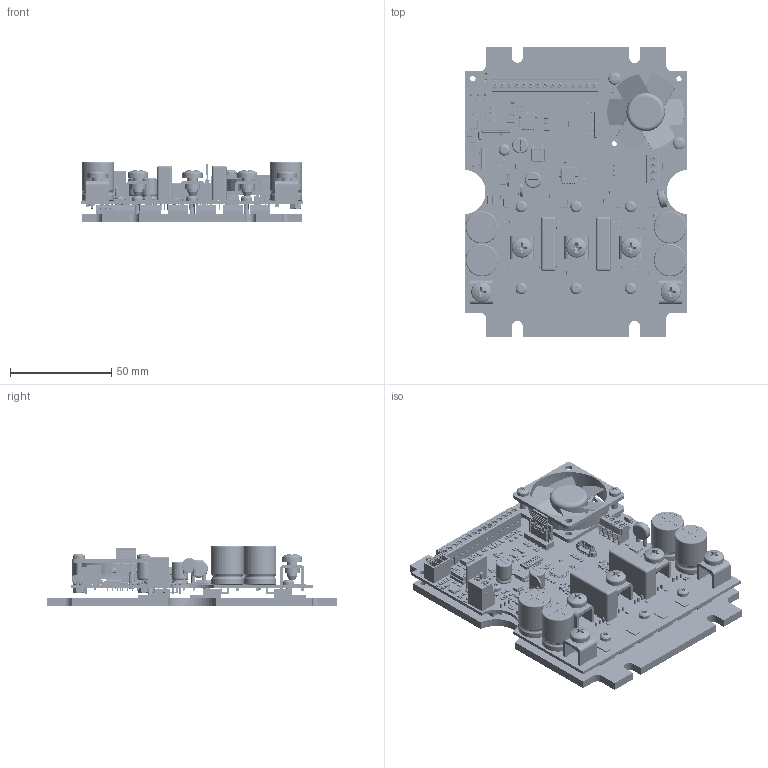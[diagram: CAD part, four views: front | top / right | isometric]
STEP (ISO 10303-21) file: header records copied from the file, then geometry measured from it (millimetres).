
FILE_DESCRIPTION(('STEP AP214'),'1');
FILE_NAME('EM-379_v2-3d.step','2023-09-08T08:03:00',(' '),(' '),'Spatial InterOp 3D','XD3DPlugin XRACreate',' ');
FILE_SCHEMA(('automotive_design'));
Length unit declared in the file: millimetre
Products named in the file (198): Submodel-Z:\TUOTTEET\EM-379\1. PCB_comma_ Schema\Ver 2\PCB\EM-379_v2-3d_PCB\3D\Input_S\RES 0805.xtd; RES 0805; Submodel-RES0805_47K_part_simplified_0805; DesignRootModel; Submodel-Z:\TUOTTEET\EM-379\1. PCB_comma_ Schema\Ver 2\PCB\EM-379_v2-3d_PCB\3D\Input_S\SOT-23.xtd; SOT-23; Submodel-MMUN2213LT1_SOT23_NPN-50V-0.1A-DIGI_part_simplified_SOT23; Submodel-RES0805_100K_part_simplified_0805; Submodel-Z:\TUOTTEET\EM-379\1. PCB_comma_ Schema\Ver 2\PCB\EM-379_v2-3d_PCB\3D\Input_S\pxc_1984620_01_PT-1-5-3-3-5-H_3D.xtd; pxc_1984620_01_PT-1-5-3-3-5-H_3D; Submodel-PT1.5_slash_3-3.5-H_part_simplified_CON-H3-7.6_slash_9.2_slash_3.5; Submodel-Z:\TUOTTEET\EM-379\1. PCB_comma_ Schema\Ver 2\PCB\EM-379_v2-3d_PCB\3D\Input_S\LED RED 0603.xtd; LED RED 0603; Submodel-WL-SMCW_0603_LED-RED_part_simplified_0603_LED; Submodel-Z:\TUOTTEET\EM-379\1. PCB_comma_ Schema\Ver 2\PCB\EM-379_v2-3d_PCB\3D\Input_S\SO-8.xtd; SO-8; Submodel-ST485EBDR_SO8_RS-485_TRANSCEIVER_part_simplified_SO8; Submodel-SM712_7_slash_12V_slash_600W-BIDIR-TVS_part_simplified_SOT23; Submodel-Z:\TUOTTEET\EM-379\1. PCB_comma_ Schema\Ver 2\PCB\EM-379_v2-3d_PCB\3D\Input_S\DO219AB.xtd; DO219AB; Submodel-RS07J-GS08_1A600V_DO219AB-2_part_simplified_DO-219AB-SMF; Submodel-Z:\TUOTTEET\EM-379\1. PCB_comma_ Schema\Ver 2\PCB\EM-379_v2-3d_PCB\3D\Input_S\RES 1206.xtd; RES 1206; Submodel-RES1206_47R_part_simplified_1206; Submodel-RES0805_4K7_part_simplified_0805; Submodel-RES0805_3K9_part_simplified_0805; Submodel-RES0805_3K3_part_simplified_0805; Submodel-RES0805_33K_part_simplified_0805; Submodel-RES0805_2K2_part_simplified_0805; Submodel-RES0805_22K_part_simplified_0805; Submodel-RES0805_1M_part_simplified_0805; Submodel-RES0805_1K_part_simplified_0805; Submodel-RES0805_10R_part_simplified_0805; Submodel-RES0805_10K_part_simplified_0805; Submodel-Z:\TUOTTEET\EM-379\1. PCB_comma_ Schema\Ver 2\PCB\EM-379_v2-3d_PCB\3D\Input_S\MF-R010.xtd; MF-R010; Submodel-PTC_RAD_0.5A60V_part_simplified_PTC-RAD-5.5_slash_2.0_slash_10.5_slash_5.08; Submodel-Z:\TUOTTEET\EM-379\1. PCB_comma_ Schema\Ver 2\PCB\EM-379_v2-3d_PCB\3D\Input_S\pxc_1843619_03_MCV-1-5-3-G-3-5_3D.xtd; pxc_1843619_03_MCV-1-5-3-G-3-5_3D; Submodel-MCV1.5_slash_3-G-3.5_part_simplified_MCV1_comma_5_slash_3-G-3_comma_5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
Assembly tree (388 placements, depth 5):
  EM-379_v2-3d
    DesignRootModel
      Submodel-RES0805_47K_part_simplified_0805  x13
        Submodel-Z:\TUOTTEET\EM-379\1. PCB_comma_ Schema\Ver 2\PCB\EM-379_v2-3d_PCB\3D\Input_S\RES 0805.xtd
          RES 0805
      Submodel-MMUN2213LT1_SOT23_NPN-50V-0.1A-DIGI_part_simplified_SOT23  x3
        Submodel-Z:\TUOTTEET\EM-379\1. PCB_comma_ Schema\Ver 2\PCB\EM-379_v2-3d_PCB\3D\Input_S\SOT-23.xtd
          SOT-23
      Submodel-RES0805_100K_part_simplified_0805  x4
        Submodel-Z:\TUOTTEET\EM-379\1. PCB_comma_ Schema\Ver 2\PCB\EM-379_v2-3d_PCB\3D\Input_S\RES 0805.xtd
          RES 0805
      Submodel-PT1.5_slash_3-3.5-H_part_simplified_CON-H3-7.6_slash_9.2_slash_3.5  x3
        Submodel-Z:\TUOTTEET\EM-379\1. PCB_comma_ Schema\Ver 2\PCB\EM-379_v2-3d_PCB\3D\Input_S\pxc_1984620_01_PT-1-5-3-3-5-H_3D.xtd
          pxc_1984620_01_PT-1-5-3-3-5-H_3D
      Submodel-WL-SMCW_0603_LED-RED_part_simplified_0603_LED
        Submodel-Z:\TUOTTEET\EM-379\1. PCB_comma_ Schema\Ver 2\PCB\EM-379_v2-3d_PCB\3D\Input_S\LED RED 0603.xtd
          LED RED 0603
      Submodel-ST485EBDR_SO8_RS-485_TRANSCEIVER_part_simplified_SO8
        Submodel-Z:\TUOTTEET\EM-379\1. PCB_comma_ Schema\Ver 2\PCB\EM-379_v2-3d_PCB\3D\Input_S\SO-8.xtd
          SO-8
      Submodel-SM712_7_slash_12V_slash_600W-BIDIR-TVS_part_simplified_SOT23
        Submodel-Z:\TUOTTEET\EM-379\1. PCB_comma_ Schema\Ver 2\PCB\EM-379_v2-3d_PCB\3D\Input_S\SOT-23.xtd
          SOT-23
      Submodel-RS07J-GS08_1A600V_DO219AB-2_part_simplified_DO-219AB-SMF  x3
        Submodel-Z:\TUOTTEET\EM-379\1. PCB_comma_ Schema\Ver 2\PCB\EM-379_v2-3d_PCB\3D\Input_S\DO219AB.xtd
          DO219AB
      Submodel-RES1206_47R_part_simplified_1206  x3
        Submodel-Z:\TUOTTEET\EM-379\1. PCB_comma_ Schema\Ver 2\PCB\EM-379_v2-3d_PCB\3D\Input_S\RES 1206.xtd
          RES 1206
      Submodel-RES0805_4K7_part_simplified_0805
        Submodel-Z:\TUOTTEET\EM-379\1. PCB_comma_ Schema\Ver 2\PCB\EM-379_v2-3d_PCB\3D\Input_S\RES 0805.xtd
          RES 0805
      Submodel-RES0805_3K9_part_simplified_0805  x3
        Submodel-Z:\TUOTTEET\EM-379\1. PCB_comma_ Schema\Ver 2\PCB\EM-379_v2-3d_PCB\3D\Input_S\RES 0805.xtd
          RES 0805
      Submodel-RES0805_3K3_part_simplified_0805  x2
        Submodel-Z:\TUOTTEET\EM-379\1. PCB_comma_ Schema\Ver 2\PCB\EM-379_v2-3d_PCB\3D\Input_S\RES 0805.xtd
          RES 0805
      Submodel-RES0805_33K_part_simplified_0805  x2
        Submodel-Z:\TUOTTEET\EM-379\1. PCB_comma_ Schema\Ver 2\PCB\EM-379_v2-3d_PCB\3D\Input_S\RES 0805.xtd
          RES 0805
      Submodel-RES0805_2K2_part_simplified_0805  x7
        Submodel-Z:\TUOTTEET\EM-379\1. PCB_comma_ Schema\Ver 2\PCB\EM-379_v2-3d_PCB\3D\Input_S\RES 0805.xtd
          RES 0805
      Submodel-RES0805_22K_part_simplified_0805  x3
        Submodel-Z:\TUOTTEET\EM-379\1. PCB_comma_ Schema\Ver 2\PCB\EM-379_v2-3d_PCB\3D\Input_S\RES 0805.xtd
          RES 0805
      Submodel-RES0805_1M_part_simplified_0805
        Submodel-Z:\TUOTTEET\EM-379\1. PCB_comma_ Schema\Ver 2\PCB\EM-379_v2-3d_PCB\3D\Input_S\RES 0805.xtd
          RES 0805
      Submodel-RES0805_1K_part_simplified_0805  x10
        Submodel-Z:\TUOTTEET\EM-379\1. PCB_comma_ Schema\Ver 2\PCB\EM-379_v2-3d_PCB\3D\Input_S\RES 0805.xtd
          RES 0805
      Submodel-RES0805_10R_part_simplified_0805  x3
        Submodel-Z:\TUOTTEET\EM-379\1. PCB_comma_ Schema\Ver 2\PCB\EM-379_v2-3d_PCB\3D\Input_S\RES 0805.xtd
          RES 0805
      Submodel-RES0805_10K_part_simplified_0805  x10
        Submodel-Z:\TUOTTEET\EM-379\1. PCB_comma_ Schema\Ver 2\PCB\EM-379_v2-3d_PCB\3D\Input_S\RES 0805.xtd
          RES 0805
      Submodel-PTC_RAD_0.5A60V_part_simplified_PTC-RAD-5.5_slash_2.0_slash_10.5_slash_5.08
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Bounding box: 110 x 143 x 30 mm (x, y, z)
Volume: 118386.3 mm3; surface area: 114509.4 mm2
Topology: 566 solids, 2878 shells, 30722 faces, 85312 edges, 57341 vertices
Faces by surface type: plane 18487, cylinder 6888, bspline 2657, sphere 1259, torus 1098, cone 331, revolution 2
Full cylindrical faces by diameter (mm): 0.6 x2, 2 x4, 2.529 x8, 2.7 x12, 3 x4, 3.086 x8, 3.2 x10, 5.8 x5, 6 x4, 6.2 x10, 7.5 x5, 9 x2, 11 x6
Entity records: 1507317 total; most frequent: ORIENTED_EDGE 270693, DIRECTION 237994, CARTESIAN_POINT 167832, EDGE_CURVE 135773, LINE 127785, VECTOR 127785, VERTEX_POINT 90346, AXIS2_PLACEMENT_3D 55104
